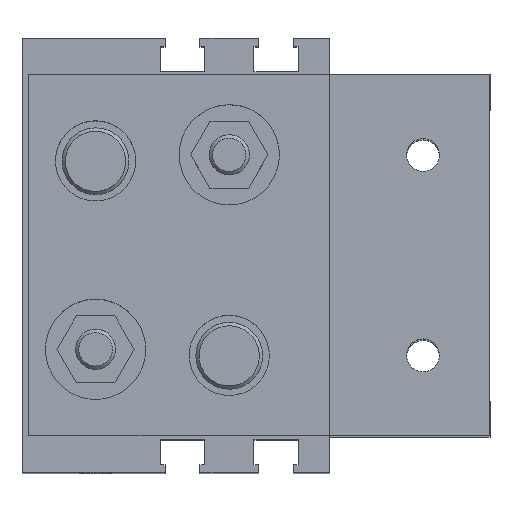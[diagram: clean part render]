
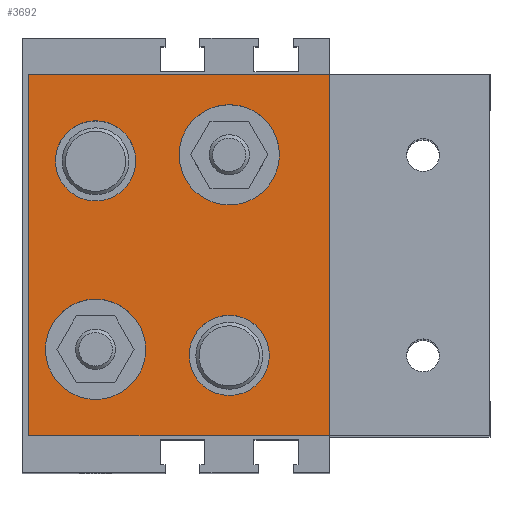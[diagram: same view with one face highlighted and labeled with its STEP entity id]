
A CAD part, top view. The second image highlights one B-rep face of the part: STEP entity #3692.
In plain terms, the highlighted planar face has unit normal (0, 0, 1) as drawn and (-1, 0, 0) by its records, which use the part's own axes.
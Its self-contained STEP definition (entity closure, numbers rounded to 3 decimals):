
#3292=CARTESIAN_POINT('',(-8.5,59.0,20.4));
#3293=VERTEX_POINT('',#3292);
#3294=CARTESIAN_POINT('',(-8.5,59.0,12.9));
#3295=DIRECTION('',(1.0,0.0,0.0));
#3296=DIRECTION('',(0.0,0.0,1.0));
#3297=AXIS2_PLACEMENT_3D('',#3294,#3295,#3296);
#3298=CIRCLE('',#3297,7.5);
#3299=EDGE_CURVE('',#3293,#3293,#3298,.T.);
#3358=CARTESIAN_POINT('',(-8.5,39.,49.5));
#3359=VERTEX_POINT('',#3358);
#3360=CARTESIAN_POINT('',(-8.5,39.,42.0));
#3361=DIRECTION('',(1.0,0.0,0.0));
#3362=DIRECTION('',(0.0,0.0,1.0));
#3363=AXIS2_PLACEMENT_3D('',#3360,#3361,#3362);
#3364=CIRCLE('',#3363,7.5);
#3365=EDGE_CURVE('',#3359,#3359,#3364,.T.);
#3410=CARTESIAN_POINT('',(-8.5,59.,47.1));
#3411=VERTEX_POINT('',#3410);
#3412=CARTESIAN_POINT('',(-8.5,59.,41.1));
#3413=DIRECTION('',(1.0,0.0,0.0));
#3414=DIRECTION('',(0.0,0.0,1.0));
#3415=AXIS2_PLACEMENT_3D('',#3412,#3413,#3414);
#3416=CIRCLE('',#3415,6.);
#3417=EDGE_CURVE('',#3411,#3411,#3416,.T.);
#3459=CARTESIAN_POINT('',(-8.5,39.0,18.));
#3460=VERTEX_POINT('',#3459);
#3461=CARTESIAN_POINT('',(-8.5,39.0,12.));
#3462=DIRECTION('',(1.0,0.0,0.0));
#3463=DIRECTION('',(0.0,0.0,1.0));
#3464=AXIS2_PLACEMENT_3D('',#3461,#3462,#3463);
#3465=CIRCLE('',#3464,6.);
#3466=EDGE_CURVE('',#3460,#3460,#3465,.T.);
#3476=CARTESIAN_POINT('',(-8.5,69.0,54.0));
#3477=VERTEX_POINT('',#3476);
#3494=CARTESIAN_POINT('',(-8.5,69.0,0.0));
#3495=VERTEX_POINT('',#3494);
#3502=CARTESIAN_POINT('',(-8.5,69.0,0.0));
#3503=DIRECTION('',(0.0,0.0,1.0));
#3504=VECTOR('',#3503,54.0);
#3505=LINE('',#3502,#3504);
#3506=EDGE_CURVE('',#3495,#3477,#3505,.T.);
#3633=CARTESIAN_POINT('',(-8.5,24.,54.0));
#3634=VERTEX_POINT('',#3633);
#3641=CARTESIAN_POINT('',(-8.5,24.,0.0));
#3642=VERTEX_POINT('',#3641);
#3643=CARTESIAN_POINT('',(-8.5,24.,0.0));
#3644=DIRECTION('',(0.0,0.0,1.0));
#3645=VECTOR('',#3644,54.0);
#3646=LINE('',#3643,#3645);
#3647=EDGE_CURVE('',#3642,#3634,#3646,.T.);
#3659=CARTESIAN_POINT('',(-8.5,24.,0.0));
#3660=DIRECTION('',(-1.0,0.0,0.0));
#3661=DIRECTION('',(0.0,0.0,1.0));
#3662=AXIS2_PLACEMENT_3D('',#3659,#3660,#3661);
#3663=PLANE('',#3662);
#3664=CARTESIAN_POINT('',(-8.5,24.,54.0));
#3665=DIRECTION('',(0.0,1.0,0.0));
#3666=VECTOR('',#3665,45.0);
#3667=LINE('',#3664,#3666);
#3668=EDGE_CURVE('',#3634,#3477,#3667,.T.);
#3669=ORIENTED_EDGE('',*,*,#3668,.T.);
#3670=ORIENTED_EDGE('',*,*,#3506,.F.);
#3671=CARTESIAN_POINT('',(-8.5,69.0,0.0));
#3672=DIRECTION('',(0.0,-1.0,0.0));
#3673=VECTOR('',#3672,45.0);
#3674=LINE('',#3671,#3673);
#3675=EDGE_CURVE('',#3495,#3642,#3674,.T.);
#3676=ORIENTED_EDGE('',*,*,#3675,.T.);
#3677=ORIENTED_EDGE('',*,*,#3647,.T.);
#3678=EDGE_LOOP('',(#3669,#3670,#3676,#3677));
#3679=FACE_OUTER_BOUND('',#3678,.T.);
#3680=ORIENTED_EDGE('',*,*,#3299,.T.);
#3681=EDGE_LOOP('',(#3680));
#3682=FACE_BOUND('',#3681,.T.);
#3683=ORIENTED_EDGE('',*,*,#3365,.T.);
#3684=EDGE_LOOP('',(#3683));
#3685=FACE_BOUND('',#3684,.T.);
#3686=ORIENTED_EDGE('',*,*,#3417,.T.);
#3687=EDGE_LOOP('',(#3686));
#3688=FACE_BOUND('',#3687,.T.);
#3689=ORIENTED_EDGE('',*,*,#3466,.T.);
#3690=EDGE_LOOP('',(#3689));
#3691=FACE_BOUND('',#3690,.T.);
#3692=ADVANCED_FACE('',(#3679,#3682,#3685,#3688,#3691),#3663,.T.);
